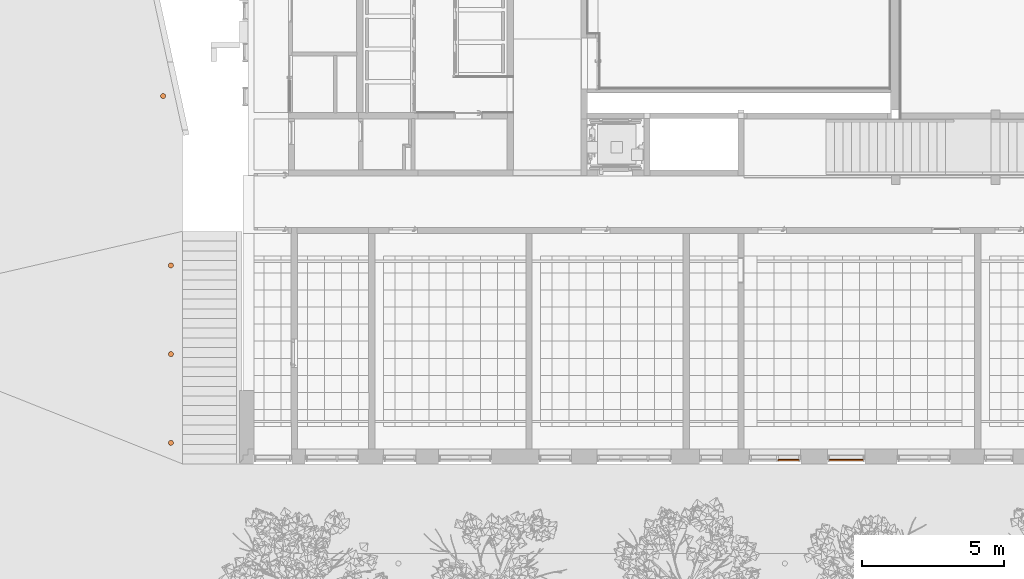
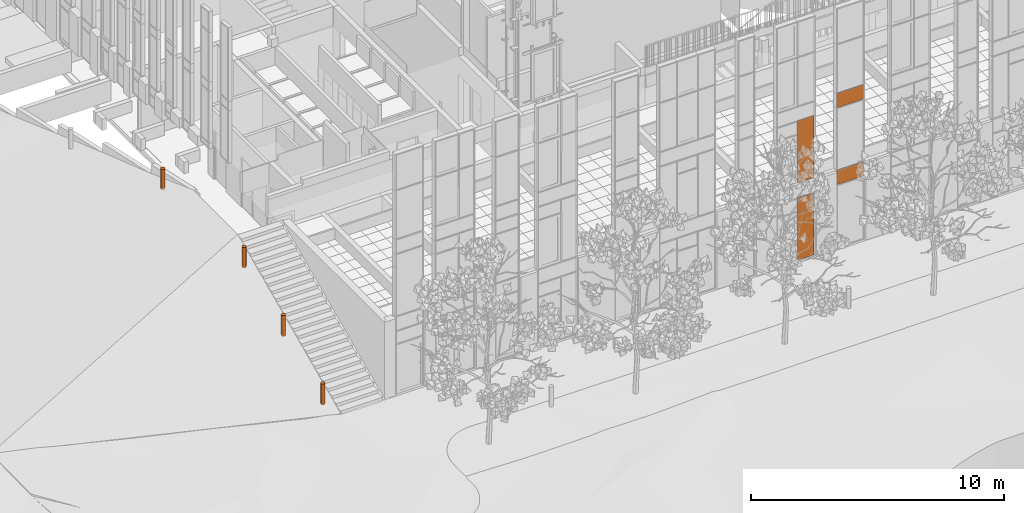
# One storey, part 215 of 246: 8 proxies, 2 elements without a shape of their own.
"""IFC2X3 building model written with IfcOpenShell, lengths in millimetres."""

import ifcopenshell
import ifcopenshell.guid

model = None  # the IFC model being written
_history = None  # IfcOwnerHistory: only IFC2X3 demands one
_inside = {}  # id of a spatial element -> (the spatial element, [elements in it])
_under = {}  # id of a project, library or spatial element -> (it, [spatial elements below it])
_declared = {}  # id of a project -> (the project, [libraries it declares])
_typed = {}  # id of a type object -> (the type object, [elements of that type])
_made_of = {}  # id of a material, layer set ... -> (it, [elements and type objects made of it])


def new_model(schema):
    """Start an empty IFC model of exactly this schema.

    Asked for "IFC4X3", IfcOpenShell would pick the latest addendum, in which some entities
    have other attributes; the version numbers below select the first issue.
    IFC2X3 requires an IfcOwnerHistory on every rooted entity: one is made here for all.
    """
    global model, _history
    if schema == "IFC4X3":
        model = ifcopenshell.file(schema_version=(4, 3, 0, 0))
    else:
        model = ifcopenshell.file(schema=schema)
    _inside.clear()
    _under.clear()
    _declared.clear()
    _typed.clear()
    _made_of.clear()
    _history = None
    if model.schema == "IFC2X3":
        org = make("IfcOrganization", Name="unknown")
        user = make(
            "IfcPersonAndOrganization",
            ThePerson=make("IfcPerson", FamilyName="unknown"),
            TheOrganization=org,
        )
        app = make(
            "IfcApplication",
            ApplicationDeveloper=org,
            Version="unknown",
            ApplicationFullName="unknown",
            ApplicationIdentifier="unknown",
        )
        _history = make(
            "IfcOwnerHistory",
            OwningUser=user,
            OwningApplication=app,
            ChangeAction="ADDED",
            CreationDate=0,
        )
    return model


def make(cls, **values):
    """One entity of the class cls with the attributes given. An attribute that is None is left unset."""
    return model.create_entity(
        cls, **{name: value for name, value in values.items() if value is not None}
    )


def entity(cls, *values):
    """Any entity or typed value of the class cls, its attributes in the order of the schema. None: left unset."""
    e = model.create_entity(cls)
    for i, value in enumerate(values):
        if value is not None:
            e[i] = value
    return e


def rooted(cls, **values):
    """An entity with a GlobalId (a new one), such as an element, a storey or a relation."""
    return make(cls, GlobalId=ifcopenshell.guid.new(), OwnerHistory=_history, **values)


def si_unit(unit_type, name, prefix=None):
    """IfcSIUnit, for example si_unit("LENGTHUNIT", "METRE", prefix="MILLI")."""
    return make("IfcSIUnit", UnitType=unit_type, Prefix=prefix, Name=name)


def converted_unit(unit_type, name, factor, base, dimensions=None, offset=None):
    """IfcConversionBasedUnit, such as the inch: factor (a typed value) times the base unit."""
    return make(
        "IfcConversionBasedUnit"
        if offset is None
        else "IfcConversionBasedUnitWithOffset",
        ConversionOffset=offset,
        Dimensions=None
        if dimensions is None
        else entity("IfcDimensionalExponents", *dimensions),
        UnitType=unit_type,
        Name=name,
        ConversionFactor=make(
            "IfcMeasureWithUnit", ValueComponent=factor, UnitComponent=base
        ),
    )


def derived_unit(unit_type, elements):
    """IfcDerivedUnit: a product of units, each with its exponent."""
    return make(
        "IfcDerivedUnit",
        Elements=[
            make("IfcDerivedUnitElement", Unit=unit, Exponent=power)
            for unit, power in elements
        ],
        UnitType=unit_type,
    )


def money_unit(currency):
    """IfcMonetaryUnit."""
    return make("IfcMonetaryUnit", Currency=currency)


def assignment(units):
    """IfcUnitAssignment: the units of a project."""
    return None if units is None else make("IfcUnitAssignment", Units=units)


def point(xyz):
    """IfcCartesianPoint."""
    return None if xyz is None else make("IfcCartesianPoint", Coordinates=xyz)


def direction(xyz):
    """IfcDirection."""
    return None if xyz is None else make("IfcDirection", DirectionRatios=xyz)


def frame(location, z_axis=None, x_axis=None):
    """IfcAxis2Placement3D, a coordinate frame: its origin and axes. An axis left out is left unset."""
    return make(
        "IfcAxis2Placement3D",
        Location=point(location),
        Axis=direction(z_axis),
        RefDirection=direction(x_axis),
    )


def origin_with_axes():
    """The frame at (0, 0, 0) with the z axis (0, 0, 1) and the x axis (1, 0, 0) written out."""
    return frame((0.0, 0.0, 0.0), z_axis=(0.0, 0.0, 1.0), x_axis=(1.0, 0.0, 0.0))


def place(relative_to, where):
    """IfcLocalPlacement: puts the frame where relative to a parent placement (None: the world)."""
    return make(
        "IfcLocalPlacement", PlacementRelTo=relative_to, RelativePlacement=where
    )


def context(
    kind, dimensions, precision=None, world=None, true_north=None, identifier=None
):
    """IfcGeometricRepresentationContext, for example the 3D "Model" context."""
    return make(
        "IfcGeometricRepresentationContext",
        ContextIdentifier=identifier,
        ContextType=kind,
        CoordinateSpaceDimension=dimensions,
        Precision=precision,
        WorldCoordinateSystem=world,
        TrueNorth=true_north,
    )


def subcontext(parent, identifier, kind, view, scale=None):
    """IfcGeometricRepresentationSubContext, for example "Body" below "Model"."""
    return make(
        "IfcGeometricRepresentationSubContext",
        ContextIdentifier=identifier,
        ContextType=kind,
        ParentContext=parent,
        TargetScale=scale,
        TargetView=view,
    )


def project(units=None, contexts=None):
    """IfcProject with its units and contexts."""
    return rooted(
        "IfcProject",
        Name="project",
        RepresentationContexts=contexts,
        UnitsInContext=assignment(units),
    )


def spatial(cls, under=None, at=None, **own):
    """A site, building, storey or space (cls), placed at a placement, below another one or the project."""
    s = rooted(cls, ObjectPlacement=at, **own)
    if under is not None:
        _under.setdefault(under.id(), (under, []))[1].append(s)
    return s


def faces_of(points, faces, orient=None, outer=None):
    """IfcFace entities. A face is a list of loops; a loop is a list of indices into points, from 0.

    orient and outer hold one flag for each loop. By default every Orientation is true, the
    first loop of a face is its IfcFaceOuterBound and the others are IfcFaceBound.
    """
    made = []
    for i, loops in enumerate(faces):
        bounds = []
        for j, loop in enumerate(loops):
            is_outer = j == 0 if outer is None else outer[i][j]
            bounds.append(
                make(
                    "IfcFaceOuterBound" if is_outer else "IfcFaceBound",
                    Bound=make("IfcPolyLoop", Polygon=[points[k] for k in loop]),
                    Orientation=True if orient is None else orient[i][j],
                )
            )
        made.append(make("IfcFace", Bounds=bounds))
    return made


def faceted_brep(points, faces, orient=None, outer=None, voids=None):
    """IfcFacetedBrep: a solid bounded by flat faces; with voids (closed shells), ...WithVoids."""
    shared = [point(p) for p in points]
    hull = make("IfcClosedShell", CfsFaces=faces_of(shared, faces, orient, outer))
    if voids is None:
        return make("IfcFacetedBrep", Outer=hull)
    return make(
        "IfcFacetedBrepWithVoids",
        Outer=hull,
        Voids=[
            make(cls, CfsFaces=faces_of(shared, fs, o, b)) for cls, fs, o, b in voids
        ],
    )


def shape(context_of_items, identifier, shape_type, items):
    """IfcShapeRepresentation: the items that make up one representation, for example the "Body"."""
    return make(
        "IfcShapeRepresentation",
        ContextOfItems=context_of_items,
        RepresentationIdentifier=identifier,
        RepresentationType=shape_type,
        Items=items,
    )


def material(Name=None, Category=None):
    """IfcMaterial."""
    return make("IfcMaterial", Name=Name, Category=Category)


def made_of(thing, what):
    """Note that an element or type object is made of a material, layer set ...; save() writes the relation."""
    if what is not None:
        _made_of.setdefault(what.id(), (what, []))[1].append(thing)
    return thing


def type_object(cls, material=None, **own):
    """A type object (cls), such as IfcWallType, which elements share."""
    return made_of(rooted(cls, **own), material)


def element(
    cls,
    number,
    at=None,
    inside=None,
    cuts=None,
    type_object=None,
    material=None,
    context=None,
    identifier="Body",
    shape_type=None,
    held_by="IfcProductDefinitionShape",
    body=None,
    shapes=None,
    **own,
):
    """One element of the class cls, such as IfcWall. Its Tag is "e" and its number.

    at: its placement. inside: the storey or other place that contains it. cuts: it is an
    opening in that element (IfcRelVoidsElement). A single representation is given by context,
    identifier, shape_type and body (its items); several are given by shapes. held_by: the class
    of the entity that holds the representations. save() writes the other relations.
    """
    e = rooted(cls, Tag="e%d" % number, ObjectPlacement=at, **own)
    if body is not None:
        shapes = [shape(context, identifier, shape_type, body)]
    if shapes is not None:
        e.Representation = make(held_by, Representations=shapes)
    if inside is not None:
        _inside.setdefault(inside.id(), (inside, []))[1].append(e)
    if cuts is not None:
        rooted(
            "IfcRelVoidsElement", RelatingBuildingElement=cuts, RelatedOpeningElement=e
        )
    if type_object is not None:
        _typed.setdefault(type_object.id(), (type_object, []))[1].append(e)
    return made_of(e, material)


def aggregate(whole, parts):
    """IfcRelAggregates: a whole, such as a stair, and the parts it consists of."""
    return rooted("IfcRelAggregates", RelatingObject=whole, RelatedObjects=parts)


def save(model, path):
    """Write the relations noted so far, then the file.

    IfcRelAggregates (storeys below a building ...), IfcRelContainedInSpatialStructure (elements
    in a storey), IfcRelDefinesByType, IfcRelAssociatesMaterial and IfcRelDeclares: one each for
    every whole, place, type object, material and project.
    """
    for whole, parts in _under.values():
        aggregate(whole, parts)
    for where, things in _inside.values():
        rooted(
            "IfcRelContainedInSpatialStructure",
            RelatedElements=things,
            RelatingStructure=where,
        )
    for kind, things in _typed.values():
        rooted("IfcRelDefinesByType", RelatedObjects=things, RelatingType=kind)
    for what, things in _made_of.values():
        rooted("IfcRelAssociatesMaterial", RelatedObjects=things, RelatingMaterial=what)
    for by, libraries in _declared.values():
        rooted("IfcRelDeclares", RelatingContext=by, RelatedDefinitions=libraries)
    model.write(path)


model = new_model("IFC2X3")

# Units and contexts
model_context = context("Model", 3, precision=0.01, world=origin_with_axes(), true_north=direction((0.0, 1.0)))
body_context = subcontext(model_context, "Body", "Model", "MODEL_VIEW")
ifc_project = project(units=[si_unit("LENGTHUNIT", "METRE", prefix="MILLI"), si_unit("AREAUNIT", "SQUARE_METRE"), si_unit("VOLUMEUNIT", "CUBIC_METRE"), converted_unit("PLANEANGLEUNIT", "DEGREE", entity("IfcPlaneAngleMeasure", 0.0174532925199), si_unit("PLANEANGLEUNIT", "RADIAN"), dimensions=[0, 0, 0, 0, 0, 0, 0]), si_unit("SOLIDANGLEUNIT", "STERADIAN"), money_unit("EUR"), converted_unit("TIMEUNIT", "Year", entity("IfcTimeMeasure", 31556926.0), si_unit("TIMEUNIT", "SECOND"), dimensions=[0, 0, 1, 0, 0, 0, 0]), si_unit("MASSUNIT", "GRAM", prefix="KILO"), si_unit("THERMODYNAMICTEMPERATUREUNIT", "DEGREE_CELSIUS"), si_unit("LUMINOUSINTENSITYUNIT", "LUMEN"), si_unit("ENERGYUNIT", "JOULE", prefix="MEGA"), derived_unit("THERMALCONDUCTANCEUNIT", [(si_unit("POWERUNIT", "WATT"), 1), (si_unit("LENGTHUNIT", "METRE"), -1), (si_unit("THERMODYNAMICTEMPERATUREUNIT", "KELVIN"), -1)]), derived_unit("SPECIFICHEATCAPACITYUNIT", [(si_unit("ENERGYUNIT", "JOULE"), 1), (si_unit("MASSUNIT", "GRAM", prefix="KILO"), -1), (si_unit("THERMODYNAMICTEMPERATUREUNIT", "KELVIN"), -1)]), derived_unit("MASSDENSITYUNIT", [(si_unit("MASSUNIT", "GRAM", prefix="KILO"), 1), (si_unit("VOLUMEUNIT", "CUBIC_METRE"), -1)])], contexts=[model_context])

# Site, building, storey
site_placement = place(None, origin_with_axes())
site = spatial("IfcSite", under=ifc_project, at=site_placement, Name="L.Koidula tn 11b", CompositionType="ELEMENT")
building_placement = place(site_placement, origin_with_axes())
building = spatial("IfcBuilding", under=site, at=building_placement, Name="Rakvere Riigigümnaasium", CompositionType="ELEMENT")
storey_placement = place(building_placement, origin_with_axes())
storey = spatial("IfcBuildingStorey", under=building, at=storey_placement, Name="1.korrus 0,00", CompositionType="ELEMENT", Elevation=0.0)

# Curtain wall, proxies
curtain_wall_type = type_object("IfcCurtainWallType", Name="Curtain Wall Type", PredefinedType="NOTDEFINED")
curtain_wall_1_placement = place(storey_placement, frame((54287.5000684, 5111.45334637, -1.61944652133e-05), z_axis=(0.0, 0.0, 1.0), x_axis=(1.0, 0.0, 0.0)))
curtain_wall_1 = element("IfcCurtainWall", 1, at=curtain_wall_1_placement, inside=storey, type_object=curtain_wall_type, Name="KLF-05-2B")
ifc_material_1 = material(Name="Klaaspakett 3x ribikardinatega")
building_element_proxy_type_1 = type_object("IfcBuildingElementProxyType", Name="756 x 628 x 54", PredefinedType="NOTDEFINED")
proxy_1_placement = place(curtain_wall_1_placement, frame((0.0, 0.0, 1813.33333333), z_axis=(0.0, 0.0, 1.0), x_axis=(-1.0, 0.0, 0.0)))
proxy_1 = element("IfcBuildingElementProxy", 2, at=proxy_1_placement, type_object=building_element_proxy_type_1, material=ifc_material_1, Name="KLF-59", context=body_context, shape_type="Brep", body=[
    faceted_brep([(-365.500036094, -27.0, 1214.66667382), (390.500056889, -27.0, 1214.66667382), (390.500056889, 27.0, 1214.66667382), (-365.500036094, 27.0, 1214.66667382), (-365.500036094, -27.0, 586.66668574), (-365.500036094, -27.0, -1776.33332141), (390.500056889, -27.0, -1776.33332141), (390.500056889, -27.0, 586.66668574), (390.500056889, 27.0, 586.66668574), (390.500056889, 27.0, -1776.33332141), (-365.500036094, 27.0, -1776.33332141), (-365.500036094, 27.0, 586.66668574)], [[[0, 1, 2, 3]], [[0, 4, 5, 6, 7, 1]], [[1, 7, 8, 2]], [[3, 2, 8, 9, 10, 11]], [[4, 0, 3, 11]], [[5, 4, 11, 10]], [[6, 5, 10, 9]], [[7, 6, 9, 8]]]),
])
proxy_2_placement = place(curtain_wall_1_placement, frame((0.0, 0.0, 5541.66666667), z_axis=(0.0, 0.0, 1.0), x_axis=(-1.0, 0.0, 0.0)))
proxy_2 = element("IfcBuildingElementProxy", 3, at=proxy_2_placement, type_object=building_element_proxy_type_1, material=ifc_material_1, Name="KLF-63", context=body_context, shape_type="Brep", body=[
    faceted_brep([(-365.500044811, -27.0, 1206.33331992), (390.500036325, -27.0, 1206.33331992), (390.500036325, 27.0, 1206.33331992), (-365.500044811, 27.0, 1206.33331992), (-365.500044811, -27.0, 578.333351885), (-365.500044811, -27.0, -1784.66665326), (390.500036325, -27.0, -1784.66665326), (390.500036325, -27.0, 578.333351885), (390.500036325, 27.0, 578.333351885), (390.500036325, 27.0, -1784.66665326), (-365.500044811, 27.0, -1784.66665326), (-365.500044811, 27.0, 578.333351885)], [[[0, 1, 2, 3]], [[0, 4, 5, 6, 7, 1]], [[1, 7, 8, 2]], [[3, 2, 8, 9, 10, 11]], [[4, 0, 3, 11]], [[5, 4, 11, 10]], [[6, 5, 10, 9]], [[7, 6, 9, 8]]]),
])
aggregate(curtain_wall_1, [proxy_1, proxy_2])

curtain_wall_2_placement = place(storey_placement, frame((56300.0000472, 5111.45334637, -1.61944652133e-05), z_axis=(0.0, 0.0, 1.0), x_axis=(1.0, 0.0, 0.0)))
curtain_wall_2 = element("IfcCurtainWall", 4, at=curtain_wall_2_placement, inside=storey, type_object=curtain_wall_type, Name="KLF-05-1E")
ifc_material_2 = material(Name="Klaaspakett- taustvärvitud klaas 3x")
building_element_proxy_type_2 = type_object("IfcBuildingElementProxyType", Name="1206 x 681 x 54", PredefinedType="NOTDEFINED")
proxy_3_placement = place(curtain_wall_2_placement, frame((1.86863076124e-05, 0.0, 7112.5), z_axis=(0.0, 0.0, 1.0), x_axis=(-1.0, 0.0, 0.0)))
proxy_3 = element("IfcBuildingElementProxy", 5, at=proxy_3_placement, type_object=building_element_proxy_type_2, material=ifc_material_2, Name="KLF-70", context=body_context, shape_type="Brep", body=[
    faceted_brep([(-603.000059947, -27.0, 340.500002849), (603.000059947, -27.0, 340.500002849), (603.000059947, 27.0, 340.500002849), (-603.000059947, 27.0, 340.500002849), (-603.000059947, -27.0, -340.499998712), (603.000059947, -27.0, -340.499998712), (603.000059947, 27.0, -340.499998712), (-603.000059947, 27.0, -340.499998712)], [[[0, 1, 2, 3]], [[0, 4, 5, 1]], [[1, 5, 6, 2]], [[3, 2, 6, 7]], [[4, 0, 3, 7]], [[5, 4, 7, 6]]]),
])
proxy_4_placement = place(curtain_wall_2_placement, frame((1.86863076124e-05, 0.0, 3392.5), z_axis=(0.0, 0.0, 1.0), x_axis=(-1.0, 0.0, 0.0)))
proxy_4 = element("IfcBuildingElementProxy", 6, at=proxy_4_placement, type_object=building_element_proxy_type_2, material=ifc_material_2, Name="KLF-66", context=body_context, shape_type="Brep", body=[
    faceted_brep([(-603.000059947, -27.0, 340.500002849), (603.000059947, -27.0, 340.500002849), (603.000059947, 27.0, 340.500002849), (-603.000059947, 27.0, 340.500002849), (-603.000059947, -27.0, -340.499998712), (603.000059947, -27.0, -340.499998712), (603.000059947, 27.0, -340.499998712), (-603.000059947, 27.0, -340.499998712)], [[[0, 1, 2, 3]], [[0, 4, 5, 1]], [[1, 5, 6, 2]], [[3, 2, 6, 7]], [[4, 0, 3, 7]], [[5, 4, 7, 6]]]),
])
aggregate(curtain_wall_2, [proxy_3, proxy_4])

# Proxies
ifc_material_3 = material(Name="Alumiinium (RAL 7026)")
building_element_proxy_type_3 = type_object("IfcBuildingElementProxyType", Name="Alumiinium (RAL 7026) D180", PredefinedType="NOTDEFINED")
proxy_5_placement = place(storey_placement, frame((32586.0016897, 5721.10803052, 195.145937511), z_axis=(0.0, 0.0, 1.0), x_axis=(1.0, 0.0, 0.0)))
element("IfcBuildingElementProxy", 7, at=proxy_5_placement, inside=storey, type_object=building_element_proxy_type_3, material=ifc_material_3, Name="Pollar valgusti", context=body_context, shape_type="Brep", body=[
    faceted_brep([(-90.0, 0.0, 1000.0), (-90.0, 0.0, 0.0), (-86.933324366, -23.2937140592, 0.0), (-86.933324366, -23.2937140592, 1000.0), (-86.933324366, 23.2937140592, 1000.0), (-86.933324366, 23.2937140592, 0.0), (-77.9422863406, 45.0, 0.0), (-63.6396103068, 63.6396103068, 0.0), (-45.0, 77.9422863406, 0.0), (-23.2937140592, 86.933324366, 0.0), (0.0, 90.0, 0.0), (23.2937140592, 86.933324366, 0.0), (45.0, 77.9422863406, 0.0), (63.6396103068, 63.6396103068, 0.0), (77.9422863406, 45.0, 0.0), (86.933324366, 23.2937140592, 0.0), (90.0, 0.0, 0.0), (86.933324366, -23.2937140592, 0.0), (77.9422863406, -45.0, 0.0), (63.6396103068, -63.6396103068, 0.0), (45.0, -77.9422863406, 0.0), (23.2937140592, -86.933324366, 0.0), (0.0, -90.0, 0.0), (-23.2937140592, -86.933324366, 0.0), (-45.0, -77.9422863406, 0.0), (-63.6396103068, -63.6396103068, 0.0), (-77.9422863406, -45.0, 0.0), (-77.9422863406, -45.0, 1000.0), (-63.6396103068, -63.6396103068, 1000.0), (-45.0, -77.9422863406, 1000.0), (-23.2937140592, -86.933324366, 1000.0), (0.0, -90.0, 1000.0), (23.2937140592, -86.933324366, 1000.0), (45.0, -77.9422863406, 1000.0), (63.6396103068, -63.6396103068, 1000.0), (77.9422863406, -45.0, 1000.0), (86.933324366, -23.2937140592, 1000.0), (90.0, 0.0, 1000.0), (86.933324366, 23.2937140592, 1000.0), (77.9422863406, 45.0, 1000.0), (63.6396103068, 63.6396103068, 1000.0), (45.0, 77.9422863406, 1000.0), (23.2937140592, 86.933324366, 1000.0), (0.0, 90.0, 1000.0), (-23.2937140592, 86.933324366, 1000.0), (-45.0, 77.9422863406, 1000.0), (-63.6396103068, 63.6396103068, 1000.0), (-77.9422863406, 45.0, 1000.0)], [[[0, 1, 2, 3]], [[4, 5, 1, 0]], [[2, 1, 5, 6, 7, 8, 9, 10, 11, 12, 13, 14, 15, 16, 17, 18, 19, 20, 21, 22, 23, 24, 25, 26]], [[3, 2, 26, 27]], [[4, 0, 3, 27, 28, 29, 30, 31, 32, 33, 34, 35, 36, 37, 38, 39, 40, 41, 42, 43, 44, 45, 46, 47]], [[47, 6, 5, 4]], [[46, 7, 6, 47]], [[45, 8, 7, 46]], [[44, 9, 8, 45]], [[43, 10, 9, 44]], [[42, 11, 10, 43]], [[41, 12, 11, 42]], [[40, 13, 12, 41]], [[39, 14, 13, 40]], [[38, 15, 14, 39]], [[37, 16, 15, 38]], [[36, 17, 16, 37]], [[35, 18, 17, 36]], [[34, 19, 18, 35]], [[33, 20, 19, 34]], [[32, 21, 20, 33]], [[31, 22, 21, 32]], [[30, 23, 22, 31]], [[29, 24, 23, 30]], [[28, 25, 24, 29]], [[27, 26, 25, 28]]]),
])
proxy_6_placement = place(storey_placement, frame((32312.8580344, 17898.0888971, 3270.63623483), z_axis=(0.0, 0.0, 1.0), x_axis=(1.0, 0.0, 0.0)))
element("IfcBuildingElementProxy", 8, at=proxy_6_placement, inside=storey, type_object=building_element_proxy_type_3, material=ifc_material_3, Name="Pollar valgusti", context=body_context, shape_type="Brep", body=[
    faceted_brep([(-90.0, 0.0, 1000.0), (-90.0, 0.0, 0.0), (-86.933324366, -23.2937140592, 0.0), (-86.933324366, -23.2937140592, 1000.0), (-86.933324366, 23.2937140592, 1000.0), (-86.933324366, 23.2937140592, 0.0), (-77.9422863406, 45.0, 0.0), (-63.6396103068, 63.6396103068, 0.0), (-45.0, 77.9422863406, 0.0), (-23.2937140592, 86.933324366, 0.0), (0.0, 90.0, 0.0), (23.2937140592, 86.933324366, 0.0), (45.0, 77.9422863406, 0.0), (63.6396103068, 63.6396103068, 0.0), (77.9422863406, 45.0, 0.0), (86.933324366, 23.2937140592, 0.0), (90.0, 0.0, 0.0), (86.933324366, -23.2937140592, 0.0), (77.9422863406, -45.0, 0.0), (63.6396103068, -63.6396103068, 0.0), (45.0, -77.9422863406, 0.0), (23.2937140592, -86.933324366, 0.0), (0.0, -90.0, 0.0), (-23.2937140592, -86.933324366, 0.0), (-45.0, -77.9422863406, 0.0), (-63.6396103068, -63.6396103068, 0.0), (-77.9422863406, -45.0, 0.0), (-77.9422863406, -45.0, 1000.0), (-63.6396103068, -63.6396103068, 1000.0), (-45.0, -77.9422863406, 1000.0), (-23.2937140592, -86.933324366, 1000.0), (0.0, -90.0, 1000.0), (23.2937140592, -86.933324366, 1000.0), (45.0, -77.9422863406, 1000.0), (63.6396103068, -63.6396103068, 1000.0), (77.9422863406, -45.0, 1000.0), (86.933324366, -23.2937140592, 1000.0), (90.0, 0.0, 1000.0), (86.933324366, 23.2937140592, 1000.0), (77.9422863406, 45.0, 1000.0), (63.6396103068, 63.6396103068, 1000.0), (45.0, 77.9422863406, 1000.0), (23.2937140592, 86.933324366, 1000.0), (0.0, 90.0, 1000.0), (-23.2937140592, 86.933324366, 1000.0), (-45.0, 77.9422863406, 1000.0), (-63.6396103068, 63.6396103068, 1000.0), (-77.9422863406, 45.0, 1000.0)], [[[0, 1, 2, 3]], [[4, 5, 1, 0]], [[2, 1, 5, 6, 7, 8, 9, 10, 11, 12, 13, 14, 15, 16, 17, 18, 19, 20, 21, 22, 23, 24, 25, 26]], [[3, 2, 26, 27]], [[4, 0, 3, 27, 28, 29, 30, 31, 32, 33, 34, 35, 36, 37, 38, 39, 40, 41, 42, 43, 44, 45, 46, 47]], [[47, 6, 5, 4]], [[46, 7, 6, 47]], [[45, 8, 7, 46]], [[44, 9, 8, 45]], [[43, 10, 9, 44]], [[42, 11, 10, 43]], [[41, 12, 11, 42]], [[40, 13, 12, 41]], [[39, 14, 13, 40]], [[38, 15, 14, 39]], [[37, 16, 15, 38]], [[36, 17, 16, 37]], [[35, 18, 17, 36]], [[34, 19, 18, 35]], [[33, 20, 19, 34]], [[32, 21, 20, 33]], [[31, 22, 21, 32]], [[30, 23, 22, 31]], [[29, 24, 23, 30]], [[28, 25, 24, 29]], [[27, 26, 25, 28]]]),
])
proxy_7_placement = place(storey_placement, frame((32586.0016897, 8835.97660193, 1607.35561466), z_axis=(0.0, 0.0, 1.0), x_axis=(1.0, 0.0, 0.0)))
element("IfcBuildingElementProxy", 9, at=proxy_7_placement, inside=storey, type_object=building_element_proxy_type_3, material=ifc_material_3, Name="Pollar valgusti", context=body_context, shape_type="Brep", body=[
    faceted_brep([(-90.0, 0.0, 1000.0), (-90.0, 0.0, 0.0), (-86.933324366, -23.2937140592, 0.0), (-86.933324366, -23.2937140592, 1000.0), (-86.933324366, 23.2937140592, 1000.0), (-86.933324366, 23.2937140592, 0.0), (-77.9422863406, 45.0, 0.0), (-63.6396103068, 63.6396103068, 0.0), (-45.0, 77.9422863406, 0.0), (-23.2937140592, 86.933324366, 0.0), (0.0, 90.0, 0.0), (23.2937140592, 86.933324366, 0.0), (45.0, 77.9422863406, 0.0), (63.6396103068, 63.6396103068, 0.0), (77.9422863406, 45.0, 0.0), (86.933324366, 23.2937140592, 0.0), (90.0, 0.0, 0.0), (86.933324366, -23.2937140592, 0.0), (77.9422863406, -45.0, 0.0), (63.6396103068, -63.6396103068, 0.0), (45.0, -77.9422863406, 0.0), (23.2937140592, -86.933324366, 0.0), (0.0, -90.0, 0.0), (-23.2937140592, -86.933324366, 0.0), (-45.0, -77.9422863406, 0.0), (-63.6396103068, -63.6396103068, 0.0), (-77.9422863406, -45.0, 0.0), (-77.9422863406, -45.0, 1000.0), (-63.6396103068, -63.6396103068, 1000.0), (-45.0, -77.9422863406, 1000.0), (-23.2937140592, -86.933324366, 1000.0), (0.0, -90.0, 1000.0), (23.2937140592, -86.933324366, 1000.0), (45.0, -77.9422863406, 1000.0), (63.6396103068, -63.6396103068, 1000.0), (77.9422863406, -45.0, 1000.0), (86.933324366, -23.2937140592, 1000.0), (90.0, 0.0, 1000.0), (86.933324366, 23.2937140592, 1000.0), (77.9422863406, 45.0, 1000.0), (63.6396103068, 63.6396103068, 1000.0), (45.0, 77.9422863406, 1000.0), (23.2937140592, 86.933324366, 1000.0), (0.0, 90.0, 1000.0), (-23.2937140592, 86.933324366, 1000.0), (-45.0, 77.9422863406, 1000.0), (-63.6396103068, 63.6396103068, 1000.0), (-77.9422863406, 45.0, 1000.0)], [[[0, 1, 2, 3]], [[4, 5, 1, 0]], [[2, 1, 5, 6, 7, 8, 9, 10, 11, 12, 13, 14, 15, 16, 17, 18, 19, 20, 21, 22, 23, 24, 25, 26]], [[3, 2, 26, 27]], [[4, 0, 3, 27, 28, 29, 30, 31, 32, 33, 34, 35, 36, 37, 38, 39, 40, 41, 42, 43, 44, 45, 46, 47]], [[47, 6, 5, 4]], [[46, 7, 6, 47]], [[45, 8, 7, 46]], [[44, 9, 8, 45]], [[43, 10, 9, 44]], [[42, 11, 10, 43]], [[41, 12, 11, 42]], [[40, 13, 12, 41]], [[39, 14, 13, 40]], [[38, 15, 14, 39]], [[37, 16, 15, 38]], [[36, 17, 16, 37]], [[35, 18, 17, 36]], [[34, 19, 18, 35]], [[33, 20, 19, 34]], [[32, 21, 20, 33]], [[31, 22, 21, 32]], [[30, 23, 22, 31]], [[29, 24, 23, 30]], [[28, 25, 24, 29]], [[27, 26, 25, 28]]]),
])
proxy_8_placement = place(storey_placement, frame((32586.001627, 11950.8451733, 3010.88598749), z_axis=(0.0, 0.0, 1.0), x_axis=(1.0, 0.0, 0.0)))
element("IfcBuildingElementProxy", 10, at=proxy_8_placement, inside=storey, type_object=building_element_proxy_type_3, material=ifc_material_3, Name="Pollar valgusti", context=body_context, shape_type="Brep", body=[
    faceted_brep([(-90.0, 0.0, 1000.0), (-90.0, 0.0, 0.0), (-86.933324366, -23.2937140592, 0.0), (-86.933324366, -23.2937140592, 1000.0), (-86.933324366, 23.2937140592, 1000.0), (-86.933324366, 23.2937140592, 0.0), (-77.9422863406, 45.0, 0.0), (-63.6396103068, 63.6396103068, 0.0), (-45.0, 77.9422863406, 0.0), (-23.2937140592, 86.933324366, 0.0), (0.0, 90.0, 0.0), (23.2937140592, 86.933324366, 0.0), (45.0, 77.9422863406, 0.0), (63.6396103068, 63.6396103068, 0.0), (77.9422863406, 45.0, 0.0), (86.933324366, 23.2937140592, 0.0), (90.0, 0.0, 0.0), (86.933324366, -23.2937140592, 0.0), (77.9422863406, -45.0, 0.0), (63.6396103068, -63.6396103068, 0.0), (45.0, -77.9422863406, 0.0), (23.2937140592, -86.933324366, 0.0), (0.0, -90.0, 0.0), (-23.2937140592, -86.933324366, 0.0), (-45.0, -77.9422863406, 0.0), (-63.6396103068, -63.6396103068, 0.0), (-77.9422863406, -45.0, 0.0), (-77.9422863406, -45.0, 1000.0), (-63.6396103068, -63.6396103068, 1000.0), (-45.0, -77.9422863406, 1000.0), (-23.2937140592, -86.933324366, 1000.0), (0.0, -90.0, 1000.0), (23.2937140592, -86.933324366, 1000.0), (45.0, -77.9422863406, 1000.0), (63.6396103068, -63.6396103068, 1000.0), (77.9422863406, -45.0, 1000.0), (86.933324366, -23.2937140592, 1000.0), (90.0, 0.0, 1000.0), (86.933324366, 23.2937140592, 1000.0), (77.9422863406, 45.0, 1000.0), (63.6396103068, 63.6396103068, 1000.0), (45.0, 77.9422863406, 1000.0), (23.2937140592, 86.933324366, 1000.0), (0.0, 90.0, 1000.0), (-23.2937140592, 86.933324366, 1000.0), (-45.0, 77.9422863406, 1000.0), (-63.6396103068, 63.6396103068, 1000.0), (-77.9422863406, 45.0, 1000.0)], [[[0, 1, 2, 3]], [[4, 5, 1, 0]], [[2, 1, 5, 6, 7, 8, 9, 10, 11, 12, 13, 14, 15, 16, 17, 18, 19, 20, 21, 22, 23, 24, 25, 26]], [[3, 2, 26, 27]], [[4, 0, 3, 27, 28, 29, 30, 31, 32, 33, 34, 35, 36, 37, 38, 39, 40, 41, 42, 43, 44, 45, 46, 47]], [[47, 6, 5, 4]], [[46, 7, 6, 47]], [[45, 8, 7, 46]], [[44, 9, 8, 45]], [[43, 10, 9, 44]], [[42, 11, 10, 43]], [[41, 12, 11, 42]], [[40, 13, 12, 41]], [[39, 14, 13, 40]], [[38, 15, 14, 39]], [[37, 16, 15, 38]], [[36, 17, 16, 37]], [[35, 18, 17, 36]], [[34, 19, 18, 35]], [[33, 20, 19, 34]], [[32, 21, 20, 33]], [[31, 22, 21, 32]], [[30, 23, 22, 31]], [[29, 24, 23, 30]], [[28, 25, 24, 29]], [[27, 26, 25, 28]]]),
])

save(model, "model.ifc")
